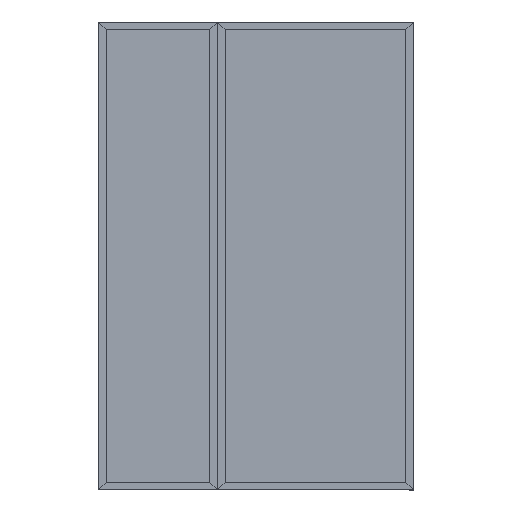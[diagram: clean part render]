
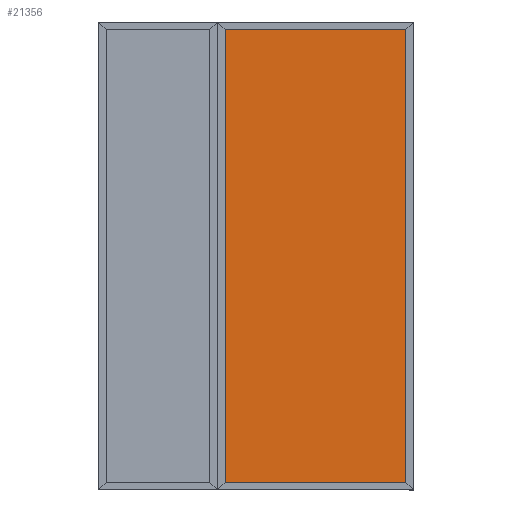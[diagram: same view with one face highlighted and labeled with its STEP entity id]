
A CAD part, top view. The second image highlights one B-rep face of the part: STEP entity #21356.
In plain terms, the highlighted planar face has unit normal (0, 0, 1).
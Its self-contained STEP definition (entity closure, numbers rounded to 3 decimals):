
#3819 = EDGE_CURVE ( 'NONE', #21094, #40784, #32783, .T. ) ;
#6595 = DIRECTION ( 'NONE',  ( -1., 0., 0. ) ) ;
#6751 = ORIENTED_EDGE ( 'NONE', *, *, #13117, .F. ) ;
#8039 = EDGE_CURVE ( 'NONE', #21094, #25682, #18655, .T. ) ;
#8143 = DIRECTION ( 'NONE',  ( 0., 1., 0. ) ) ;
#8993 = CARTESIAN_POINT ( 'NONE',  ( 465.07, -1162.2, -13.25 ) ) ;
#12073 = EDGE_CURVE ( 'NONE', #40784, #24935, #37094, .T. ) ;
#13117 = EDGE_CURVE ( 'NONE', #25682, #24935, #46391, .T. ) ;
#13861 = CARTESIAN_POINT ( 'NONE',  ( 0., 0., -13.25 ) ) ;
#15604 = EDGE_LOOP ( 'NONE', ( #6751, #17415, #32295, #47898 ) ) ;
#17415 = ORIENTED_EDGE ( 'NONE', *, *, #8039, .F. ) ;
#18655 = LINE ( 'NONE', #42756, #20792 ) ;
#18976 = CARTESIAN_POINT ( 'NONE',  ( 465.07, 1162.2, -13.25 ) ) ;
#20792 = VECTOR ( 'NONE', #6595, 1000. ) ;
#21094 = VERTEX_POINT ( 'NONE', #8993 ) ;
#21356 = ADVANCED_FACE ( 'NONE', ( #41062 ), #33336, .F. ) ;
#24935 = VERTEX_POINT ( 'NONE', #41247 ) ;
#25682 = VERTEX_POINT ( 'NONE', #45686 ) ;
#26748 = DIRECTION ( 'NONE',  ( -1., 0., 0. ) ) ;
#27108 = DIRECTION ( 'NONE',  ( -1., 0., 0. ) ) ;
#29178 = VECTOR ( 'NONE', #26748, 1000. ) ;
#29381 = AXIS2_PLACEMENT_3D ( 'NONE', #13861, #33855, #27108 ) ;
#29691 = DIRECTION ( 'NONE',  ( 0., 1., 0. ) ) ;
#29792 = VECTOR ( 'NONE', #8143, 1000. ) ;
#32295 = ORIENTED_EDGE ( 'NONE', *, *, #3819, .T. ) ;
#32783 = LINE ( 'NONE', #45357, #34132 ) ;
#33231 = CARTESIAN_POINT ( 'NONE',  ( 0., 1162.2, -13.25 ) ) ;
#33336 = PLANE ( 'NONE',  #29381 ) ;
#33855 = DIRECTION ( 'NONE',  ( 0., 0., -1. ) ) ;
#34132 = VECTOR ( 'NONE', #29691, 1000. ) ;
#37094 = LINE ( 'NONE', #33231, #29178 ) ;
#40784 = VERTEX_POINT ( 'NONE', #18976 ) ;
#41062 = FACE_OUTER_BOUND ( 'NONE', #15604, .T. ) ;
#41247 = CARTESIAN_POINT ( 'NONE',  ( -465.07, 1162.2, -13.25 ) ) ;
#42756 = CARTESIAN_POINT ( 'NONE',  ( 0., -1162.2, -13.25 ) ) ;
#45357 = CARTESIAN_POINT ( 'NONE',  ( 465.07, 0., -13.25 ) ) ;
#45686 = CARTESIAN_POINT ( 'NONE',  ( -465.07, -1162.2, -13.25 ) ) ;
#46391 = LINE ( 'NONE', #46653, #29792 ) ;
#46653 = CARTESIAN_POINT ( 'NONE',  ( -465.07, 0., -13.25 ) ) ;
#47898 = ORIENTED_EDGE ( 'NONE', *, *, #12073, .T. ) ;
